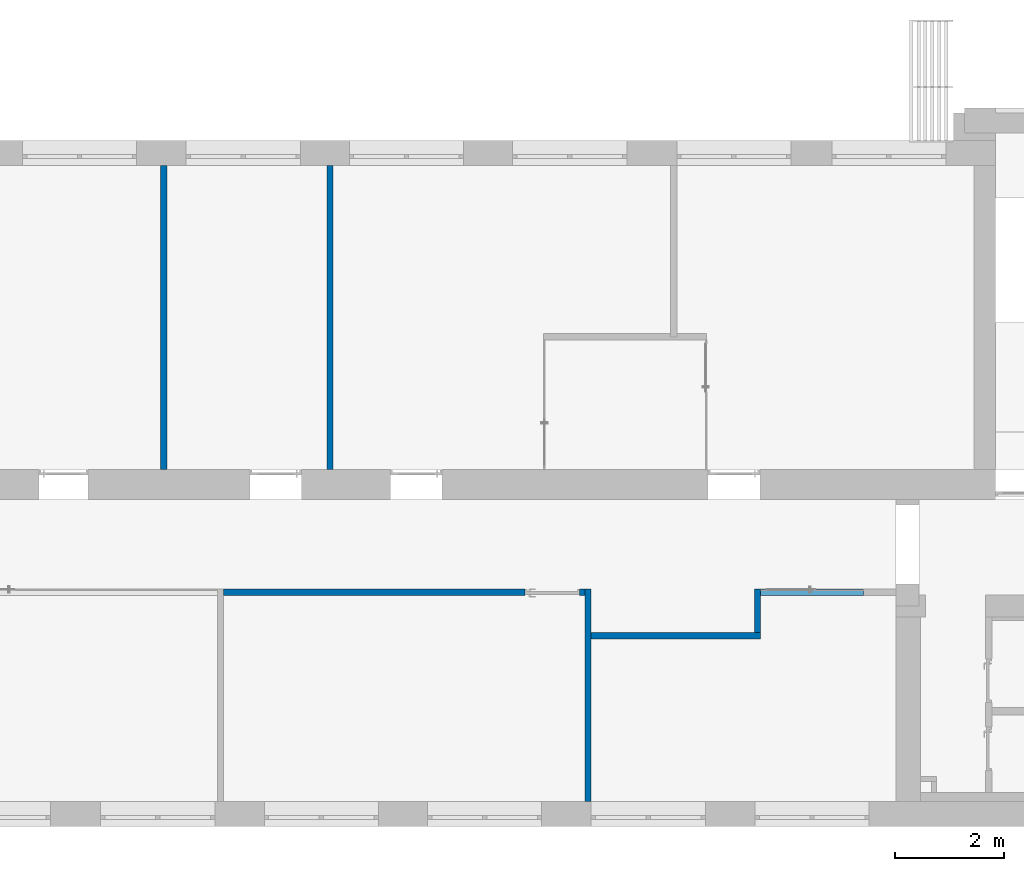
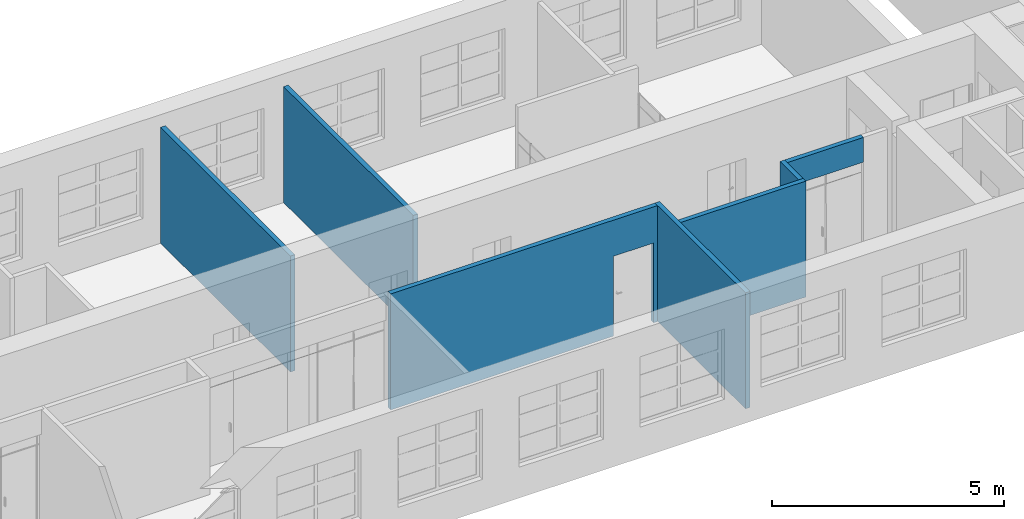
# One storey, part 50 of 66: 7 walls, 1 opening.
"""IFC2X3 building model written with IfcOpenShell, lengths in millimetres."""

from ifc_helpers import new_model, entity, si_unit, converted_unit, derived_unit, direction, frame, frame_2d, origin, place, context, subcontext, project, spatial, rectangle, extrude, material, layer, layer_set, layer_usage, type_object, element, save


model = new_model("IFC2X3")

# Units and contexts
model_context = context("Model", 3, precision=0.01, world=origin(), true_north=direction((6.12303176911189e-17, 1.0)))
body_context = subcontext(model_context, "Body", "Model", "MODEL_VIEW")
ifc_project = project(units=[si_unit("LENGTHUNIT", "METRE", prefix="MILLI"), si_unit("AREAUNIT", "SQUARE_METRE"), si_unit("VOLUMEUNIT", "CUBIC_METRE"), converted_unit("PLANEANGLEUNIT", "DEGREE", entity("IfcRatioMeasure", 0.0174532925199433), si_unit("PLANEANGLEUNIT", "RADIAN"), dimensions=[0, 0, 0, 0, 0, 0, 0]), si_unit("MASSUNIT", "GRAM", prefix="KILO"), derived_unit("MASSDENSITYUNIT", [(si_unit("MASSUNIT", "GRAM", prefix="KILO"), 1), (si_unit("LENGTHUNIT", "METRE"), -3)]), si_unit("TIMEUNIT", "SECOND"), si_unit("FREQUENCYUNIT", "HERTZ"), si_unit("THERMODYNAMICTEMPERATUREUNIT", "DEGREE_CELSIUS"), derived_unit("THERMALTRANSMITTANCEUNIT", [(si_unit("MASSUNIT", "GRAM", prefix="KILO"), 1), (si_unit("THERMODYNAMICTEMPERATUREUNIT", "KELVIN"), -1), (si_unit("TIMEUNIT", "SECOND"), -3)]), derived_unit("VOLUMETRICFLOWRATEUNIT", [(si_unit("LENGTHUNIT", "METRE"), 3), (si_unit("TIMEUNIT", "SECOND"), -1)]), si_unit("ELECTRICCURRENTUNIT", "AMPERE"), si_unit("ELECTRICVOLTAGEUNIT", "VOLT"), si_unit("POWERUNIT", "WATT"), si_unit("FORCEUNIT", "NEWTON", prefix="KILO"), si_unit("ILLUMINANCEUNIT", "LUX"), si_unit("LUMINOUSFLUXUNIT", "LUMEN"), si_unit("LUMINOUSINTENSITYUNIT", "CANDELA"), derived_unit("USERDEFINED", [(si_unit("MASSUNIT", "GRAM", prefix="KILO"), -1), (si_unit("LENGTHUNIT", "METRE"), -2), (si_unit("TIMEUNIT", "SECOND"), 3), (si_unit("LUMINOUSFLUXUNIT", "LUMEN"), 1)]), derived_unit("LINEARVELOCITYUNIT", [(si_unit("LENGTHUNIT", "METRE"), 1), (si_unit("TIMEUNIT", "SECOND"), -1)]), si_unit("PRESSUREUNIT", "PASCAL"), derived_unit("USERDEFINED", [(si_unit("LENGTHUNIT", "METRE"), -2), (si_unit("MASSUNIT", "GRAM", prefix="KILO"), 1), (si_unit("TIMEUNIT", "SECOND"), -2)])], contexts=[model_context])

# Site, building, storey
site_placement = place(None, frame((-151.875543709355, 2715.0, 0.0)))
site = spatial("IfcSite", under=ifc_project, at=site_placement, Name="Surface", CompositionType="ELEMENT")
building_placement = place(site_placement, origin())
building = spatial("IfcBuilding", under=site, at=building_placement, CompositionType="ELEMENT")
storey_placement = place(building_placement, frame((0.0, 0.0, 3350.0)))
storey = spatial("IfcBuildingStorey", under=building, at=storey_placement, Name="2 korrus", CompositionType="ELEMENT", Elevation=3350.00000000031)

# Walls
ifc_material_1 = material(Name="__Kips GN13_tava")
ifc_layer_1 = layer(ifc_material_1, 12.5)
ifc_layer_2 = layer(ifc_material_1, 12.5)
ifc_material_2 = material(Name="__Soojustus EPS")
ifc_layer_3 = layer(ifc_material_2, 66.0)
ifc_layer_4 = layer(ifc_material_1, 12.5)
ifc_layer_5 = layer(ifc_material_1, 12.5)
ifc_layer_set_1 = layer_set([ifc_layer_1, ifc_layer_2, ifc_layer_3, ifc_layer_4, ifc_layer_5], Name="Basic Wall:SS-3_Kipssein tava ruumide vahel")
ifc_layer_usage_1 = layer_usage(ifc_layer_set_1, "AXIS2", "NEGATIVE", 58.0)
wall_type_1 = type_object("IfcWallType", Name="Basic Wall:SS-3_Kipssein tava ruumide vahel", PredefinedType="STANDARD", material=ifc_layer_set_1)
wall_1_placement = place(storey_placement, frame((17080.8493553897, 6560.0, 0.0), z_axis=(0.0, 0.0, 1.0), x_axis=(0.0, 1.0, 0.0)))
element("IfcWallStandardCase", 1, at=wall_1_placement, inside=storey, type_object=wall_type_1, material=ifc_layer_usage_1, Name="SEIN - 005", ObjectType="Basic Wall:SS-3_Kipssein tava ruumide vahel", context=body_context, shape_type="SweptSolid", body=[
    extrude(rectangle(XDim=5590.0, YDim=116.0, at=frame_2d((2795.0, -7.56728013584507e-13), x_axis=(-1.0, 0.0))), origin(), (0.0, 0.0, 1.0), 3050.43203354),
])
ifc_layer_usage_2 = layer_usage(ifc_layer_set_1, "AXIS2", "POSITIVE", -58.0)
wall_2_placement = place(storey_placement, frame((24939.564726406, 3507.04493399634, 0.0)))
element("IfcWallStandardCase", 2, at=wall_2_placement, inside=storey, type_object=wall_type_1, material=ifc_layer_usage_2, Name="Basic Wall:SS-3_Kipssein tava ruumide vahel", ObjectType="Basic Wall:SS-3_Kipssein tava ruumide vahel", context=body_context, shape_type="SweptSolid", body=[
    extrude(rectangle(XDim=3114.45243299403, YDim=116.0, at=frame_2d((1557.22621649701, 1.81188397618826e-13), x_axis=(-1.0, 0.0))), origin(), (0.0, 0.0, 1.0), 3050.0),
])
ifc_layer_usage_3 = layer_usage(ifc_layer_set_1, "AXIS2", "POSITIVE", -58.0)
wall_3_placement = place(storey_placement, frame((27996.0171594, 3565.04493399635, 0.0), z_axis=(0.0, 0.0, 1.0), x_axis=(0.0, 1.0, 0.0)))
element("IfcWallStandardCase", 3, at=wall_3_placement, inside=storey, type_object=wall_type_1, material=ifc_layer_usage_3, Name="Basic Wall:SS-3_Kipssein tava ruumide vahel", ObjectType="Basic Wall:SS-3_Kipssein tava ruumide vahel", context=body_context, shape_type="SweptSolid", body=[
    extrude(rectangle(XDim=799.999999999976, YDim=116.0, at=frame_2d((399.999999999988, 0.0), x_axis=(-1.0, 0.0))), origin(), (0.0, 0.0, 1.0), 3050.0),
])
ifc_layer_usage_4 = layer_usage(ifc_layer_set_1, "AXIS2", "NEGATIVE", 58.0)
wall_4_placement = place(storey_placement, frame((28054.0171594, 4307.04493399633, 2400.0)))
element("IfcWallStandardCase", 4, at=wall_4_placement, inside=storey, type_object=wall_type_1, material=ifc_layer_usage_4, Name="Basic Wall:SS-3_Kipssein tava ruumide vahel", ObjectType="Basic Wall:SS-3_Kipssein tava ruumide vahel", context=body_context, shape_type="SweptSolid", body=[
    extrude(rectangle(XDim=1890.00000000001, YDim=116.0, at=frame_2d((945.000000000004, -1.52766688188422e-13), x_axis=(-1.0, 0.0))), origin(), (0.0, 0.0, 1.0), 650.432033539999),
])
ifc_layer_usage_5 = layer_usage(ifc_layer_set_1, "AXIS2", "NEGATIVE", 58.0)
wall_5_placement = place(storey_placement, frame((20138.0530977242, 12150.0, 0.0), z_axis=(0.0, 0.0, 1.0), x_axis=(0.0, -1.0, 0.0)))
element("IfcWallStandardCase", 5, at=wall_5_placement, inside=storey, type_object=wall_type_1, material=ifc_layer_usage_5, Name="Basic Wall:SS-3_Kipssein tava ruumide vahel", ObjectType="Basic Wall:SS-3_Kipssein tava ruumide vahel", context=body_context, shape_type="SweptSolid", body=[
    extrude(rectangle(XDim=5589.99999999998, YDim=116.0, at=frame_2d((2794.99999999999, 9.34363697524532e-13), x_axis=(-1.0, 0.0))), origin(), (0.0, 0.0, 1.0), 3050.0),
])
ifc_layer_6 = layer(ifc_material_1, 12.5)
ifc_layer_7 = layer(ifc_material_1, 12.5)
ifc_layer_8 = layer(ifc_material_2, 66.0)
ifc_layer_9 = layer(ifc_material_1, 12.5)
ifc_layer_10 = layer(ifc_material_1, 12.5)
ifc_layer_set_2 = layer_set([ifc_layer_6, ifc_layer_7, ifc_layer_8, ifc_layer_9, ifc_layer_10], Name="Basic Wall:SS-3*_Kipssein EI-60")
ifc_layer_usage_6 = layer_usage(ifc_layer_set_2, "AXIS2", "NEGATIVE", 58.0)
wall_type_2 = type_object("IfcWallType", Name="Basic Wall:SS-3*_Kipssein EI-60", PredefinedType="STANDARD", material=ifc_layer_set_2)
wall_6_placement = place(storey_placement, frame((24881.564726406, 4365.04493399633, 0.0), z_axis=(0.0, 0.0, 1.0), x_axis=(0.0, -1.0, 0.0)))
element("IfcWallStandardCase", 6, at=wall_6_placement, inside=storey, type_object=wall_type_2, material=ifc_layer_usage_6, Name="Basic Wall:SS-3*_Kipssein EI-60", ObjectType="Basic Wall:SS-3*_Kipssein EI-60", context=body_context, shape_type="SweptSolid", body=[
    extrude(rectangle(XDim=3905.140301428, YDim=116.0, at=frame_2d((1952.570150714, 0.0), x_axis=(-1.0, 0.0))), origin(), (0.0, 0.0, 1.0), 3050.0),
])

# Wall, opening
ifc_layer_usage_7 = layer_usage(ifc_layer_set_2, "AXIS2", "NEGATIVE", 58.0)
wall_7_placement = place(storey_placement, frame((24823.564726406, 4307.04493399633, 0.0), z_axis=(0.0, 0.0, 1.0), x_axis=(-1.0, 0.0, 0.0)))
wall_7 = element("IfcWallStandardCase", 7, at=wall_7_placement, inside=storey, type_object=wall_type_2, material=ifc_layer_usage_7, Name="Basic Wall:SS-3*_Kipssein EI-60", ObjectType="Basic Wall:SS-3*_Kipssein EI-60", context=body_context, shape_type="SweptSolid", body=[
    extrude(rectangle(XDim=6641.00000000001, YDim=116.0, at=frame_2d((3320.5, 2.1316282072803e-14), x_axis=(-1.0, 0.0))), origin(), (0.0, 0.0, 1.0), 3050.0),
])
opening_placement = place(wall_7_placement, frame((100.0, -58.0, 0.0)))
element("IfcOpeningElement", 8, at=opening_placement, cuts=wall_7, Name="Ühepoolsed:SU-09:1", ObjectType="Opening", context=body_context, shape_type="SweptSolid", body=[
    extrude(rectangle(XDim=2099.99999999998, YDim=1000.0, at=frame_2d((1049.99999999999, 500.0), x_axis=(1.0, 0.0))), frame((0.0, 0.0, 0.0), z_axis=(0.0, 1.0, 0.0), x_axis=(0.0, 0.0, 1.0)), (0.0, 0.0, 1.0), 116.0),
])

save(model, "model.ifc")
